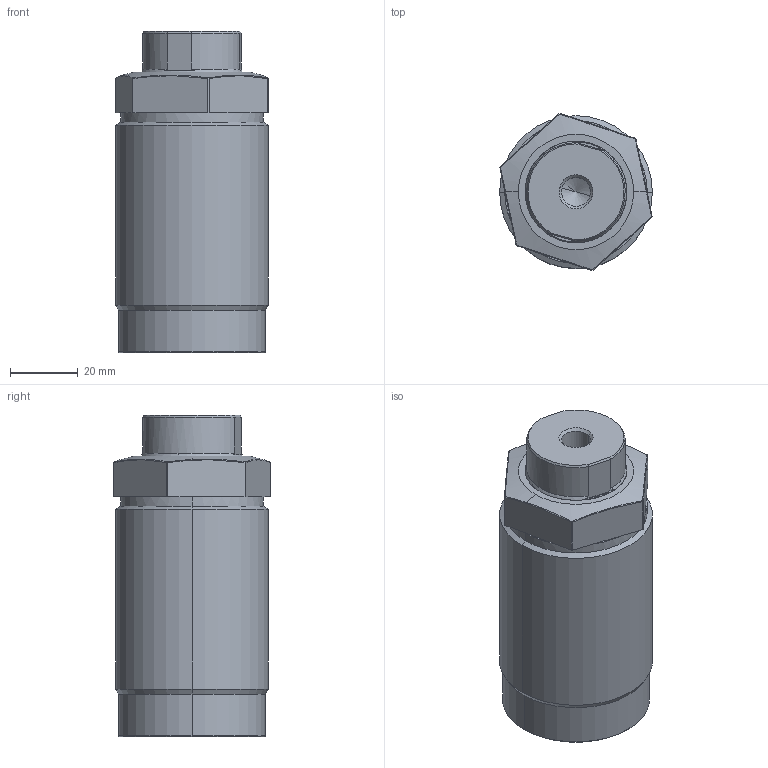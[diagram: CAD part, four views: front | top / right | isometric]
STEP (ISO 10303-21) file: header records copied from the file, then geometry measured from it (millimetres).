
FILE_DESCRIPTION (( 'STEP AP214' ), '1' );
FILE_NAME ('TO3C-M455-L.STEP', '2020-07-10T05:03:38', ( '' ), ( '' ), 'SwSTEP 2.0', 'SolidWorks 2019', '' );
FILE_SCHEMA (( 'AUTOMOTIVE_DESIGN' ));
Length unit declared in the file: millimetre
Products named in the file (3): M455-L-PLUNGER; TO3C-M455-L-BODY; TO3C-M455-L
Assembly tree (2 placements, depth 2):
  TO3C-M455-L
    TO3C-M455-L-BODY
    M455-L-PLUNGER
Bounding box: 45 x 46.2 x 94.7 mm (x, y, z)
Volume: 134629.9 mm3; surface area: 27331.2 mm2
Topology: 2 solids, 2 shells, 98 faces, 210 edges, 119 vertices
Faces by surface type: plane 44, cone 25, cylinder 23, bspline 6
Entity records: 3838 total; most frequent: CARTESIAN_POINT 1624, DIRECTION 444, ORIENTED_EDGE 416, EDGE_CURVE 208, AXIS2_PLACEMENT_3D 173, VERTEX_POINT 119, EDGE_LOOP 103, LINE 98
